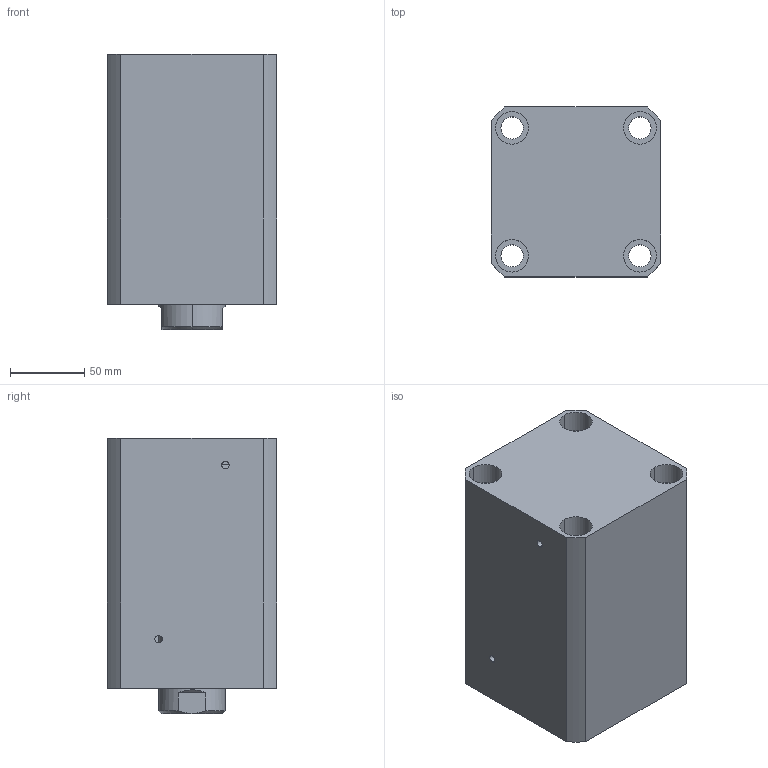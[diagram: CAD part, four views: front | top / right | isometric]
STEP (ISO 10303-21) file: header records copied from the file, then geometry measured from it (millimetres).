
FILE_DESCRIPTION (( 'STEP AP214' ), '1' );
FILE_NAME ('chtb-sdma80x90n_asm.STEP', '2018-05-29T02:22:25', ( 'Windows' ), ( 'Microsoft' ), 'SwSTEP 2.0', 'SolidWorks 2015', '' );
FILE_SCHEMA (( 'AUTOMOTIVE_DESIGN' ));
Length unit declared in the file: millimetre
Products named in the file (4): CHTB-SD80QG; chtb-sdma80x90n_asm; CHTB-SDMA80X90NBT; CHTB-SD80X90NHSG
Assembly tree (3 placements, depth 2):
  chtb-sdma80x90n_asm
    CHTB-SD80QG
    CHTB-SD80X90NHSG
    CHTB-SDMA80X90NBT
Bounding box: 114 x 114 x 185 mm (x, y, z)
Volume: 1689748.1 mm3; surface area: 243259.8 mm2
Topology: 3 solids, 3 shells, 190 faces, 516 edges, 345 vertices
Faces by surface type: cylinder 107, plane 35, torus 18, cone 16, bspline 14
Entity records: 15170 total; most frequent: CARTESIAN_POINT 10463, ORIENTED_EDGE 1020, DIRECTION 879, EDGE_CURVE 510, AXIS2_PLACEMENT_3D 368, VERTEX_POINT 345, EDGE_LOOP 227, ADVANCED_FACE 190
